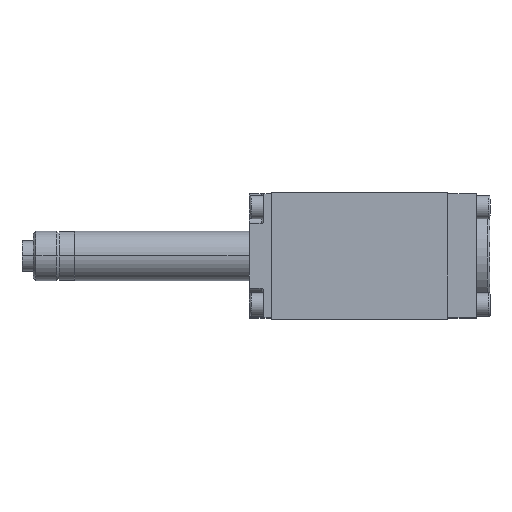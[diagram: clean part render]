
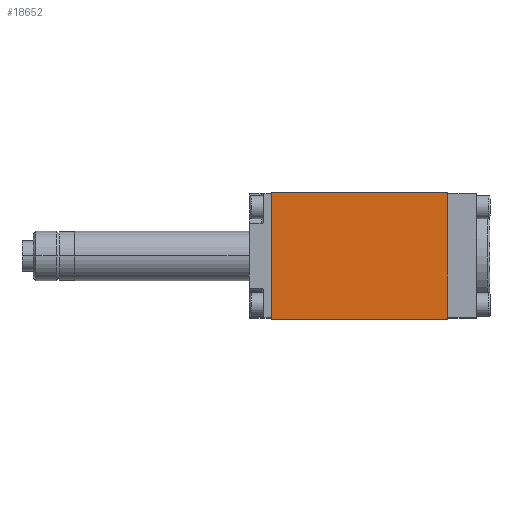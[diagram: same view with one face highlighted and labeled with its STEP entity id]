
A CAD part, top view. The second image highlights one B-rep face of the part: STEP entity #18652.
In plain terms, the highlighted planar face has unit normal (0, 0, 1).
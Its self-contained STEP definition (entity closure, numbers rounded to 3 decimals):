
#453 = DIRECTION ( 'NONE',  ( 0., -1., 0. ) ) ;
#576 = CARTESIAN_POINT ( 'NONE',  ( 0., 23., 23. ) ) ;
#2398 = CARTESIAN_POINT ( 'NONE',  ( 0., -23., 23. ) ) ;
#2403 = EDGE_CURVE ( 'NONE', #18627, #28313, #12876, .T. ) ;
#2786 = FACE_OUTER_BOUND ( 'NONE', #6716, .T. ) ;
#2862 = CARTESIAN_POINT ( 'NONE',  ( 64., -23., 23. ) ) ;
#3468 = VERTEX_POINT ( 'NONE', #8154 ) ;
#6426 = LINE ( 'NONE', #26916, #18782 ) ;
#6716 = EDGE_LOOP ( 'NONE', ( #18805, #18639, #18391, #30127 ) ) ;
#7503 = CARTESIAN_POINT ( 'NONE',  ( 64., -23., 23. ) ) ;
#8154 = CARTESIAN_POINT ( 'NONE',  ( 0., -23., 23. ) ) ;
#9793 = DIRECTION ( 'NONE',  ( -1., 0., 0. ) ) ;
#9864 = VECTOR ( 'NONE', #9793, 1000. ) ;
#12347 = PLANE ( 'NONE',  #29645 ) ;
#12876 = LINE ( 'NONE', #2862, #13721 ) ;
#13721 = VECTOR ( 'NONE', #453, 1000. ) ;
#13927 = EDGE_CURVE ( 'NONE', #18627, #27662, #6426, .T. ) ;
#13962 = EDGE_CURVE ( 'NONE', #27662, #3468, #16441, .T. ) ;
#13966 = EDGE_CURVE ( 'NONE', #28313, #3468, #28732, .T. ) ;
#14811 = CARTESIAN_POINT ( 'NONE',  ( 64., 23., 23. ) ) ;
#14923 = CARTESIAN_POINT ( 'NONE',  ( 64., -23., 23. ) ) ;
#16441 = LINE ( 'NONE', #2398, #22216 ) ;
#17363 = DIRECTION ( 'NONE',  ( -1., 0., 0. ) ) ;
#18391 = ORIENTED_EDGE ( 'NONE', *, *, #2403, .F. ) ;
#18401 = CARTESIAN_POINT ( 'NONE',  ( 64., -23., 23. ) ) ;
#18627 = VERTEX_POINT ( 'NONE', #14811 ) ;
#18639 = ORIENTED_EDGE ( 'NONE', *, *, #13966, .F. ) ;
#18652 = ADVANCED_FACE ( 'NONE', ( #2786 ), #12347, .F. ) ;
#18782 = VECTOR ( 'NONE', #29451, 1000. ) ;
#18805 = ORIENTED_EDGE ( 'NONE', *, *, #13962, .T. ) ;
#22216 = VECTOR ( 'NONE', #22307, 1000. ) ;
#22307 = DIRECTION ( 'NONE',  ( 0., -1., 0. ) ) ;
#26916 = CARTESIAN_POINT ( 'NONE',  ( 64., 23., 23. ) ) ;
#27662 = VERTEX_POINT ( 'NONE', #576 ) ;
#28313 = VERTEX_POINT ( 'NONE', #18401 ) ;
#28732 = LINE ( 'NONE', #7503, #9864 ) ;
#29451 = DIRECTION ( 'NONE',  ( -1., 0., 0. ) ) ;
#29645 = AXIS2_PLACEMENT_3D ( 'NONE', #14923, #32076, #17363 ) ;
#30127 = ORIENTED_EDGE ( 'NONE', *, *, #13927, .T. ) ;
#32076 = DIRECTION ( 'NONE',  ( 0., 0., -1. ) ) ;
